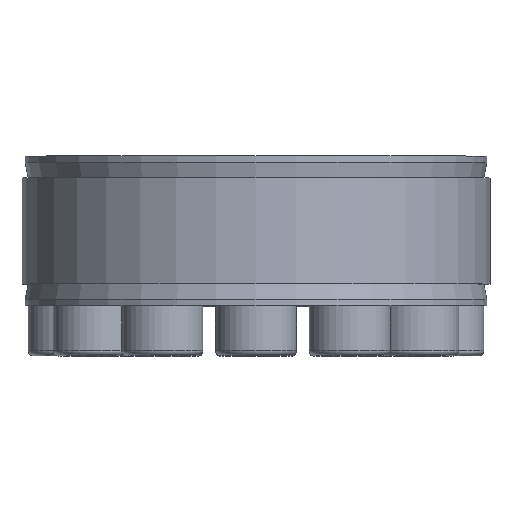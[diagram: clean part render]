
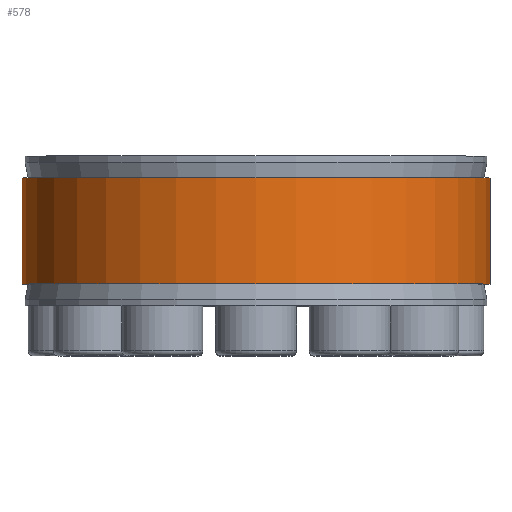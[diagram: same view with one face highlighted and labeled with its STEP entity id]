
A CAD part, top view. The second image highlights one B-rep face of the part: STEP entity #578.
In plain terms, the highlighted cylindrical face has radius 37.5 mm (diameter 75 mm), a partial arc.
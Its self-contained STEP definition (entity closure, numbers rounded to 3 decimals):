
#578 = ADVANCED_FACE( '', ( #1106 ), #1107, .T. );
#1106 = FACE_OUTER_BOUND( '', #1967, .T. );
#1107 = CYLINDRICAL_SURFACE( '', #1968, 37.5 );
#1967 = EDGE_LOOP( '', ( #2916, #2917, #2918, #2919 ) );
#1968 = AXIS2_PLACEMENT_3D( '', #2920, #2921, #2922 );
#2916 = ORIENTED_EDGE( '', *, *, #4885, .F. );
#2917 = ORIENTED_EDGE( '', *, *, #4886, .T. );
#2918 = ORIENTED_EDGE( '', *, *, #4887, .T. );
#2919 = ORIENTED_EDGE( '', *, *, #4888, .F. );
#2920 = CARTESIAN_POINT( '', ( 0., -60., 0. ) );
#2921 = DIRECTION( '', ( 0., -1., 0. ) );
#2922 = DIRECTION( '', ( 0., 0., 1. ) );
#4885 = EDGE_CURVE( '', #5464, #5465, #5466, .F. );
#4886 = EDGE_CURVE( '', #5464, #5467, #5468, .T. );
#4887 = EDGE_CURVE( '', #5467, #5469, #5470, .F. );
#4888 = EDGE_CURVE( '', #5465, #5469, #5471, .T. );
#5464 = VERTEX_POINT( '', #6272 );
#5465 = VERTEX_POINT( '', #6273 );
#5466 = LINE( '', #6274, #6275 );
#5467 = VERTEX_POINT( '', #6276 );
#5468 = CIRCLE( '', #6277, 37.5 );
#5469 = VERTEX_POINT( '', #6278 );
#5470 = LINE( '', #6279, #6280 );
#5471 = CIRCLE( '', #6281, 37.5 );
#6272 = CARTESIAN_POINT( '', ( 0.625, 8.5, -37.495 ) );
#6273 = CARTESIAN_POINT( '', ( 0.625, -8.5, -37.495 ) );
#6274 = CARTESIAN_POINT( '', ( 0.625, -60., -37.495 ) );
#6275 = VECTOR( '', #7737, 1000. );
#6276 = CARTESIAN_POINT( '', ( -0.625, 8.5, -37.495 ) );
#6277 = AXIS2_PLACEMENT_3D( '', #7738, #7739, #7740 );
#6278 = CARTESIAN_POINT( '', ( -0.625, -8.5, -37.495 ) );
#6279 = CARTESIAN_POINT( '', ( -0.625, -60., -37.495 ) );
#6280 = VECTOR( '', #7741, 1000. );
#6281 = AXIS2_PLACEMENT_3D( '', #7742, #7743, #7744 );
#7737 = DIRECTION( '', ( 0., 1., 0. ) );
#7738 = CARTESIAN_POINT( '', ( 0., 8.5, 0. ) );
#7739 = DIRECTION( '', ( 0., -1., 0. ) );
#7740 = DIRECTION( '', ( 0., 0., -1. ) );
#7741 = DIRECTION( '', ( 0., 1., 0. ) );
#7742 = CARTESIAN_POINT( '', ( 0., -8.5, 0. ) );
#7743 = DIRECTION( '', ( 0., -1., 0. ) );
#7744 = DIRECTION( '', ( 0., 0., -1. ) );
